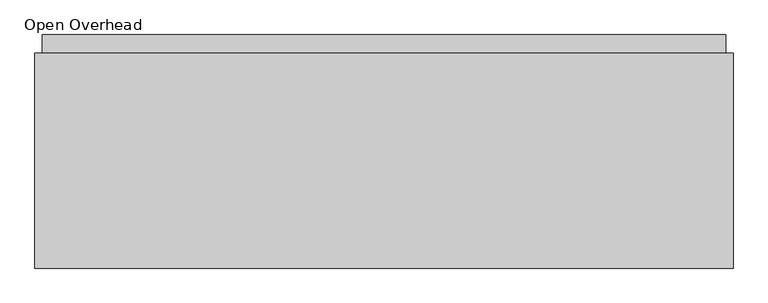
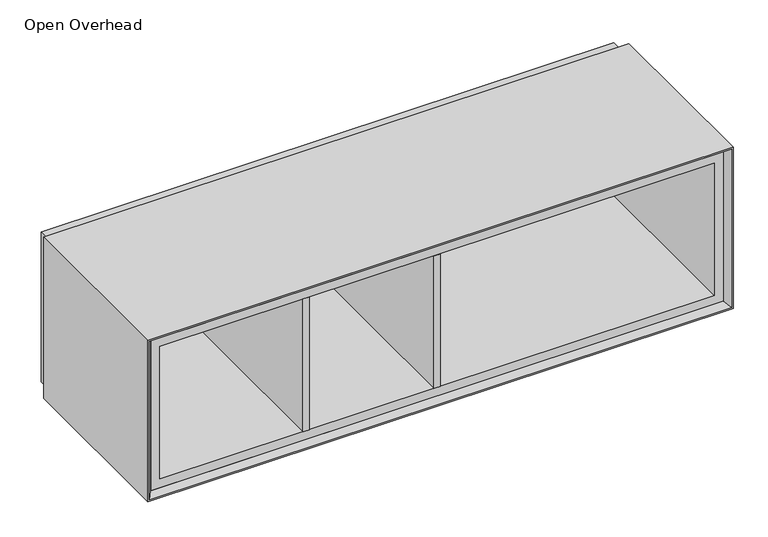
"""IFC4 building model written with IfcOpenShell, lengths in millimetres: furniture geometry."""

from ifc_helpers import new_model, si_unit, frame, origin, place, context, project, spatial, polyline, outline, extrude, faceted_brep, source, transform, mapped, element, save


def open_overhead_a7a5bcfd(model_context):
    return source(origin(), model_context, "Body", "SolidModel", [
        extrude(outline(polyline([(615.95, 376.2375), (615.95, 12.7), (603.25, 12.7), (603.25, 376.2375), (615.95, 376.2375)])), frame((0.0, 0.0, 1250.95), z_axis=(0.0, 0.0, 1.0), x_axis=(1.0, 0.0, 0.0)), (0.0, 0.0, 1.0), 292.1),
        extrude(outline(polyline([(342.9, 376.2375), (342.9, 12.7), (330.2, 12.7), (330.2, 376.2375), (342.9, 376.2375)])), frame((0.0, 0.0, 1250.95), z_axis=(0.0, 0.0, 1.0), x_axis=(1.0, 0.0, 0.0)), (0.0, 0.0, 1.0), 292.1),
        extrude(outline(polyline([(1206.5, 376.2375), (12.7, 376.2375), (12.7, 407.9875), (1206.5, 407.9875), (1206.5, 376.2375)])), frame((0.0, 0.0, 1231.9), z_axis=(0.0, 0.0, 1.0), x_axis=(1.0, 0.0, 0.0)), (0.0, 0.0, 1.0), 330.2),
        extrude(outline(polyline([(1562.1, 1206.5), (1562.1, 12.7), (1231.9, 12.7), (1231.9, 1206.5), (1562.1, 1206.5)]), holes=[polyline([(1543.05, 31.75), (1543.05, 1187.45), (1250.95, 1187.45), (1250.95, 31.75), (1543.05, 31.75)])]), frame((0.0, 12.7, 0.0), z_axis=(0.0, 1.0, 0.0), x_axis=(0.0, 0.0, 1.0)), (0.0, 0.0, 1.0), 363.5375),
        faceted_brep([(1206.5, 12.7, 1562.1), (1206.5, 376.2375, 1562.1), (1206.5, 376.2375, 1231.9), (1206.5, 12.7, 1231.9), (1216.025, 0.0, 1571.625), (1216.025, 0.0, 1222.375), (1219.2, 376.2375, 1574.8), (1219.2, 0.0, 1574.8), (1219.2, 0.0, 1219.2), (1219.2, 376.2375, 1219.2), (12.7, 376.2375, 1231.9), (12.7, 12.7, 1231.9), (3.175, 0.0, 1222.375), (0.0, 0.0, 1219.2), (0.0, 376.2375, 1219.2), (12.7, 376.2375, 1562.1), (12.7, 12.7, 1562.1), (3.175, 0.0, 1571.625), (0.0, 0.0, 1574.8), (0.0, 376.2375, 1574.8)], [[[0, 1, 2, 3]], [[4, 0, 3, 5]], [[6, 7, 8, 9]], [[3, 2, 10, 11]], [[5, 3, 11, 12]], [[9, 8, 13, 14]], [[11, 10, 15, 16]], [[12, 11, 16, 17]], [[14, 13, 18, 19]], [[9, 14, 19, 6], [1, 15, 10, 2]], [[16, 15, 1, 0]], [[17, 16, 0, 4]], [[7, 18, 13, 8], [5, 12, 17, 4]], [[19, 18, 7, 6]]]),
    ])


if __name__ == "__main__":
    model = new_model("IFC4")
    model_context = context("Model", 3, world=origin())
    ifc_project = project(units=[si_unit("LENGTHUNIT", "METRE", prefix="MILLI")], contexts=[model_context])
    site = spatial("IfcSite", under=ifc_project)
    building = spatial("IfcBuilding", under=site)
    placement = place(None, origin())
    open_overhead_shape = open_overhead_a7a5bcfd(model_context)
    element("IfcFurniture", 1, ObjectType="Open Overhead : 1 1/4\" Backpanel - 48\" W", at=placement, inside=building, context=model_context, shape_type="MappedRepresentation", body=[
        mapped(open_overhead_shape, transform((0.0, 0.0, 0.0), x_axis=(1.0, 0.0, 0.0), y_axis=(0.0, 1.0, 0.0), z_axis=(0.0, 0.0, 1.0))),
    ])
    save(model, "model.ifc")
